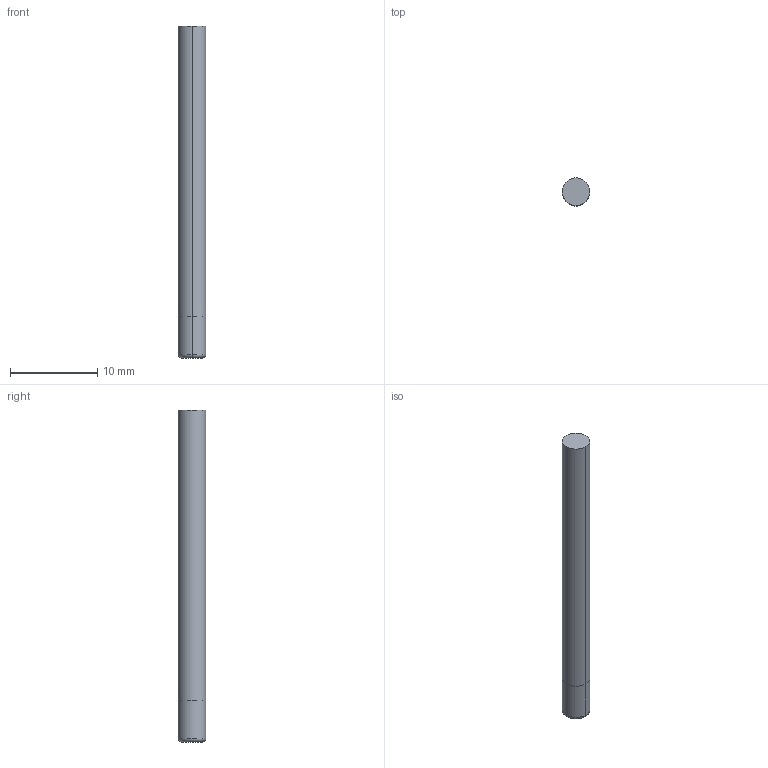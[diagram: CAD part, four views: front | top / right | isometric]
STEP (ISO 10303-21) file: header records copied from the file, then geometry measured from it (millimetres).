
FILE_DESCRIPTION((' '),'2;1');
FILE_NAME( '3MVS1250R.015AH.stp', '2026-01-21T19:26:41', (' '), ('--- Datakit www.datakit.com---'), ' Datakit CrossCadWare V2025.4 Sep 19 2025', 'Mastercam 2027', ' ');
FILE_SCHEMA(('AUTOMOTIVE_DESIGN { 1 0 10303 214 1 1 1 1 }'));
Length unit declared in the file: inch
Products named in the file (1): 3MVS1250R
Bounding box: 3.17 x 3.17 x 38.1 mm (x, y, z)
Volume: 301.4 mm3; surface area: 394.2 mm2
Topology: 1 solids, 1 shells, 8 faces, 14 edges, 8 vertices
Faces by surface type: cylinder 4, plane 2, torus 2
Entity records: 266 total; most frequent: DIRECTION 50, CARTESIAN_POINT 35, ORIENTED_EDGE 28, AXIS2_PLACEMENT_3D 23, EDGE_CURVE 14, CIRCLE 10, VERTEX_POINT 8, EDGE_LOOP 8
